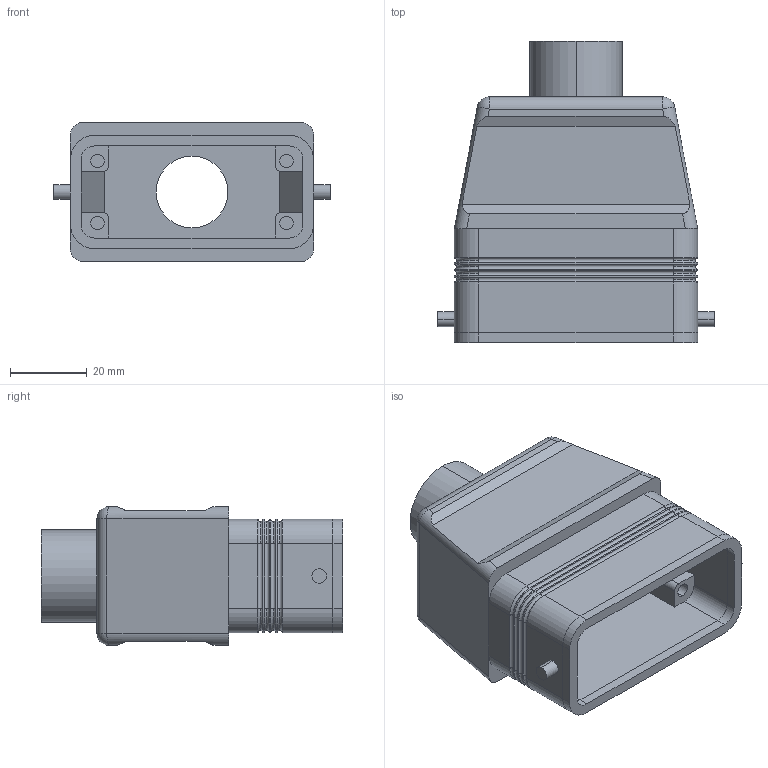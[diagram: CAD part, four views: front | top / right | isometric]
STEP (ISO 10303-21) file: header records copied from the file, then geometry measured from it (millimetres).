
FILE_DESCRIPTION (( 'STEP AP214' ), '1' );
FILE_NAME ('CZAV-15L16.STEP', '2006-07-06T14:19:54', ( 'Mencom User' ), ( 'Mencom Corporation' ), 'SwSTEP 2.0', 'SolidWorks 2006104', '' );
FILE_SCHEMA (( 'AUTOMOTIVE_DESIGN' ));
Length unit declared in the file: inch
Products named in the file (1): CZAV-15L16
Bounding box: 72.01 x 78.51 x 36.2 mm (x, y, z)
Volume: 48212.6 mm3; surface area: 28141.6 mm2
Topology: 2 solids, 2 shells, 191 faces, 450 edges, 268 vertices
Faces by surface type: cylinder 82, plane 73, torus 32, sphere 4
Entity records: 5696 total; most frequent: DIRECTION 1014, CARTESIAN_POINT 954, ORIENTED_EDGE 892, EDGE_CURVE 446, AXIS2_PLACEMENT_3D 392, VERTEX_POINT 268, VECTOR 230, LINE 230
